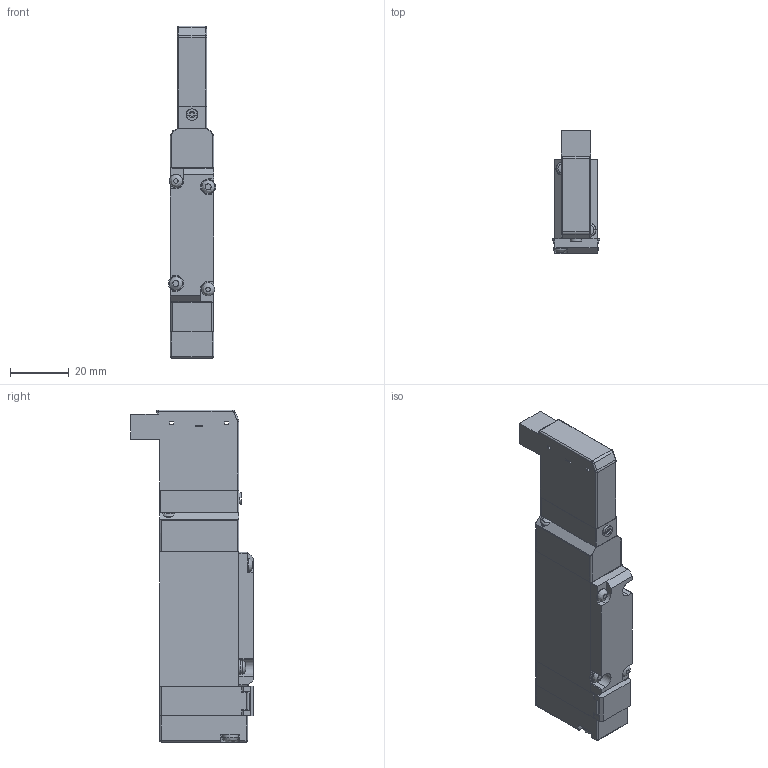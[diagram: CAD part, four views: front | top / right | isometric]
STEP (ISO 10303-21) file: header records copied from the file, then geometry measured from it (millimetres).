
FILE_DESCRIPTION( (''), '2;1');
FILE_NAME ('CVICAD02.3360.F15T1-A1_21462.stp','2021-07-12T19:12:39',(''),(''),'spGate 12.6.6','','');
FILE_SCHEMA (('AUTOMOTIVE_DESIGN'));
Length unit declared in the file: millimetre
Bounding box: 16.2 x 42 x 113.5 mm (x, y, z)
Volume: 45232.3 mm3; surface area: 17558.2 mm2
Topology: 7 solids, 9 shells, 300 faces, 810 edges, 536 vertices
Faces by surface type: plane 188, cylinder 91, bspline 16, sphere 5
Full cylindrical faces by diameter (mm): 2.8 x2, 3.3 x1, 3.4 x1, 3.9 x2, 4 x1, 4.5 x6, 4.7 x2, 5.2 x2, 5.6 x2
Entity records: 16348 total; most frequent: CARTESIAN_POINT 2435, ORIENTED_EDGE 1606, DIRECTION 1501, COLOUR_RGB 1110, PRESENTATION_STYLE_ASSIGNMENT 1110, STYLED_ITEM 1110, EDGE_CURVE 803, DRAUGHTING_PRE_DEFINED_CURVE_FONT 803
